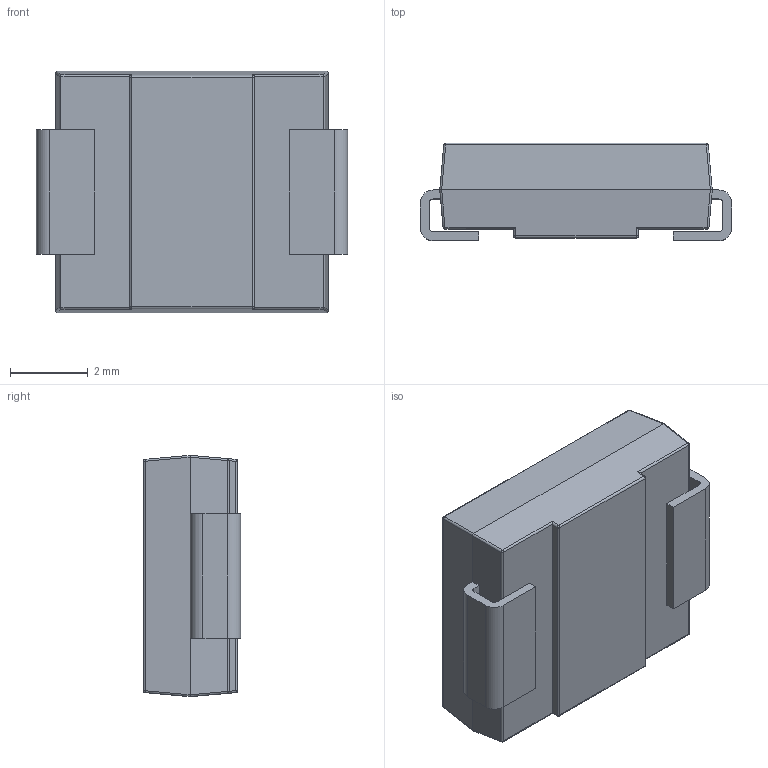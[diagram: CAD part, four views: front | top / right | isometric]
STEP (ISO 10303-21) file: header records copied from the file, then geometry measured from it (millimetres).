
FILE_DESCRIPTION (( 'STEP AP214' ), '1' );
FILE_NAME ('SMC (DO-214AB).STEP', '2021-04-29T01:33:56', ( 'Lukyanov A' ), ( '' ), 'SwSTEP 2.0', 'SolidWorks 2015', '' );
FILE_SCHEMA (( 'AUTOMOTIVE_DESIGN' ));
Length unit declared in the file: millimetre
Products named in the file (1): SMC (DO-214AB)
Bounding box: 8 x 2.5 x 6.2 mm (x, y, z)
Volume: 100.9 mm3; surface area: 180.5 mm2
Topology: 1 solids, 1 shells, 233 faces, 603 edges, 378 vertices
Faces by surface type: plane 124, bspline 63, cylinder 34, sphere 12
Entity records: 12747 total; most frequent: CARTESIAN_POINT 5318, ORIENTED_EDGE 1182, DIRECTION 847, EDGE_CURVE 591, VECTOR 401, LINE 401, VERTEX_POINT 378, EDGE_LOOP 251
